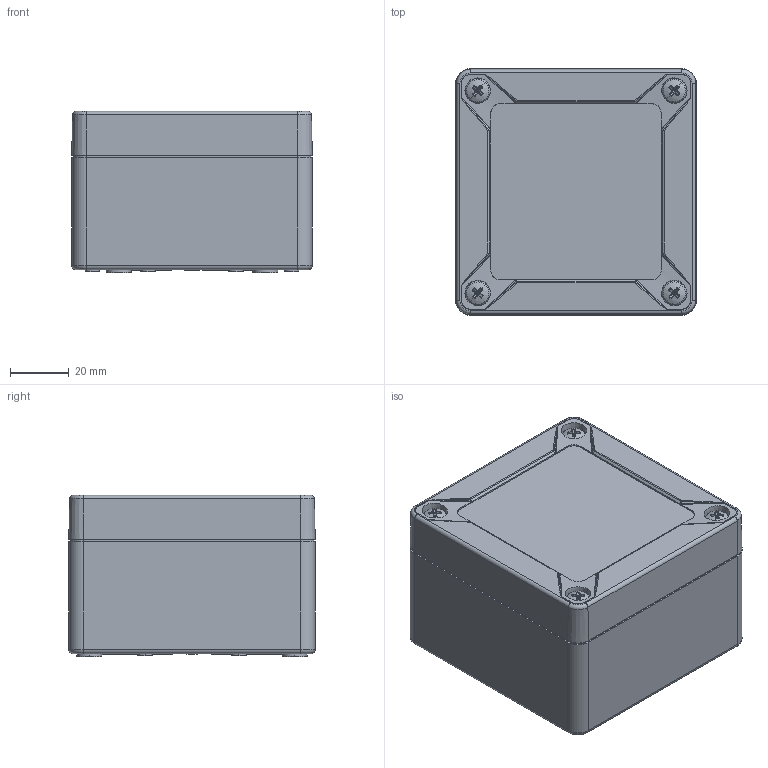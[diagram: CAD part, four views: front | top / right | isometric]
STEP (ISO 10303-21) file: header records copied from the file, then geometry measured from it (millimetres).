
FILE_DESCRIPTION (( 'STEP AP214' ), '1' );
FILE_NAME ('SG-10-03.STEP', '2026-02-27T17:27:45', ( '' ), ( '' ), 'SwSTEP 2.0', 'SolidWorks 2025', '' );
FILE_SCHEMA (( 'AUTOMOTIVE_DESIGN' ));
Length unit declared in the file: inch
Products named in the file (7): SG-98S; SG-10B_SG-10B-02; SG-10-03; SCREWS-018_defaut; SCREWS-022_SCREWS-022; SG-10C_SG-10C-03; SG-KIT-01
Assembly tree (13 placements, depth 3):
  SG-10-03
    SG-10B_SG-10B-02
    SG-10C_SG-10C-03
    SG-KIT-01
      SCREWS-018_defaut  x4
      SCREWS-022_SCREWS-022  x4
      SG-98S  x2
Bounding box: 82 x 84 x 55 mm (x, y, z)
Volume: 103904.5 mm3; surface area: 87819.5 mm2
Topology: 9 solids, 13 shells, 2811 faces, 6984 edges, 4171 vertices
Faces by surface type: cylinder 873, plane 861, bspline 567, torus 278, cone 130, sphere 102
Entity records: 70116 total; most frequent: CARTESIAN_POINT 29899, ORIENTED_EDGE 8752, DIRECTION 7919, EDGE_CURVE 4376, AXIS2_PLACEMENT_3D 2875, VERTEX_POINT 2732, VECTOR 2169, LINE 2169
